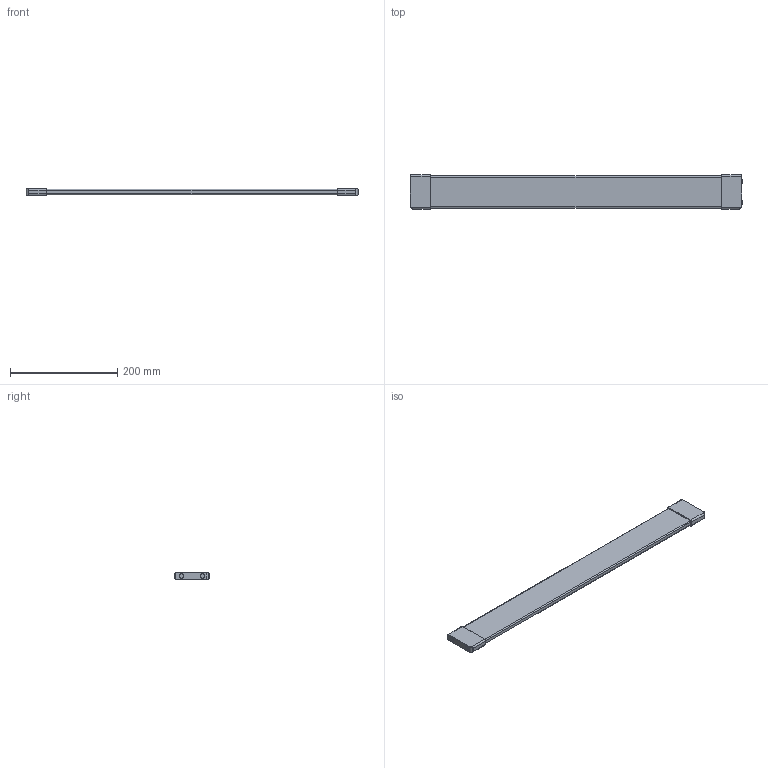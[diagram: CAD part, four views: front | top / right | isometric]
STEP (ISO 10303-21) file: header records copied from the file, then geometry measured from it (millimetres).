
FILE_DESCRIPTION (( 'STEP AP214' ), '1' );
FILE_NAME ('Schubkastenteiler_PROKAB_700.step', '2009-11-04T15:16:47', ( 'Waldinger Reinhard' ), ( 'Grass GmbH' ), 'SwSTEP 2.0', 'SolidWorks 2009', '' );
FILE_SCHEMA (( 'AUTOMOTIVE_DESIGN' ));
Length unit declared in the file: millimetre
Products named in the file (1): Schubkastenteiler_PROKAB_700
Bounding box: 617.9 x 63.7 x 13 mm (x, y, z)
Volume: 376976.6 mm3; surface area: 86628.7 mm2
Topology: 1 solids, 1 shells, 92 faces, 208 edges, 124 vertices
Faces by surface type: cylinder 38, torus 28, plane 22, bspline 4
Entity records: 3210 total; most frequent: CARTESIAN_POINT 1069, DIRECTION 486, ORIENTED_EDGE 416, EDGE_CURVE 208, AXIS2_PLACEMENT_3D 205, VERTEX_POINT 124, CIRCLE 116, EDGE_LOOP 98
